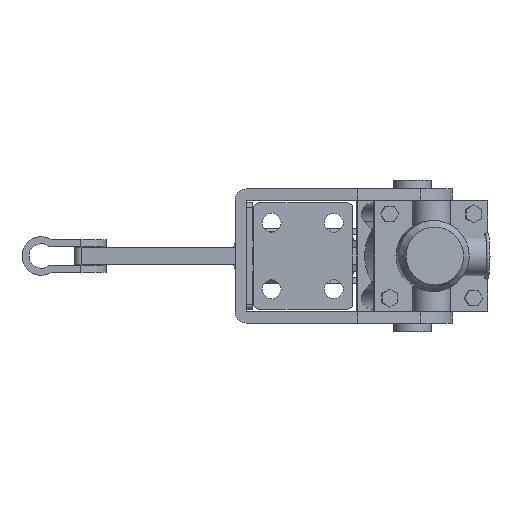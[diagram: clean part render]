
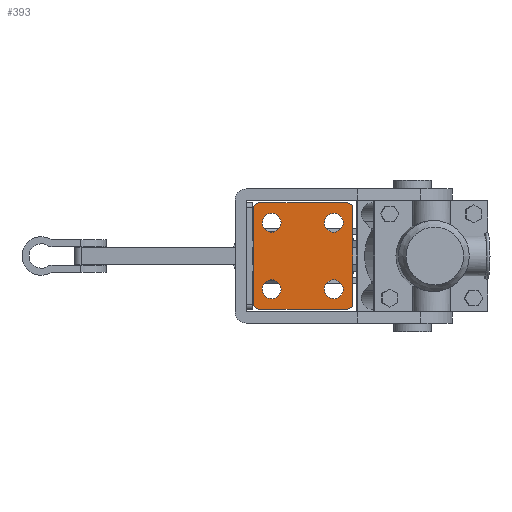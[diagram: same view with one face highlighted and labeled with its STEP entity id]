
A CAD part, front view. The second image highlights one B-rep face of the part: STEP entity #393.
In plain terms, the highlighted planar face has unit normal (0, -1, 0).
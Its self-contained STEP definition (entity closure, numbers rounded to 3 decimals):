
#393 = ADVANCED_FACE( '', ( #808, #809, #810, #811, #812 ), #813, .F. );
#808 = FACE_BOUND( '', #1644, .T. );
#809 = FACE_BOUND( '', #1645, .T. );
#810 = FACE_BOUND( '', #1646, .T. );
#811 = FACE_BOUND( '', #1647, .T. );
#812 = FACE_OUTER_BOUND( '', #1648, .T. );
#813 = PLANE( '', #1649 );
#1644 = EDGE_LOOP( '', ( #2660 ) );
#1645 = EDGE_LOOP( '', ( #2661 ) );
#1646 = EDGE_LOOP( '', ( #2662 ) );
#1647 = EDGE_LOOP( '', ( #2663 ) );
#1648 = EDGE_LOOP( '', ( #2664, #2665, #2666, #2667, #2668, #2669, #2670, #2671 ) );
#1649 = AXIS2_PLACEMENT_3D( '', #2672, #2673, #2674 );
#2660 = ORIENTED_EDGE( '', *, *, #5246, .T. );
#2661 = ORIENTED_EDGE( '', *, *, #5244, .T. );
#2662 = ORIENTED_EDGE( '', *, *, #5242, .T. );
#2663 = ORIENTED_EDGE( '', *, *, #5240, .T. );
#2664 = ORIENTED_EDGE( '', *, *, #5194, .T. );
#2665 = ORIENTED_EDGE( '', *, *, #5205, .F. );
#2666 = ORIENTED_EDGE( '', *, *, #5295, .F. );
#2667 = ORIENTED_EDGE( '', *, *, #5212, .F. );
#2668 = ORIENTED_EDGE( '', *, *, #5190, .F. );
#2669 = ORIENTED_EDGE( '', *, *, #5214, .F. );
#2670 = ORIENTED_EDGE( '', *, *, #5217, .F. );
#2671 = ORIENTED_EDGE( '', *, *, #5296, .F. );
#2672 = CARTESIAN_POINT( '', ( 0., 0., 24. ) );
#2673 = DIRECTION( '', ( 0., 1., 0. ) );
#2674 = DIRECTION( '', ( 0., 0., 1. ) );
#5190 = EDGE_CURVE( '', #6070, #6071, #6072, .T. );
#5194 = EDGE_CURVE( '', #6078, #6079, #6080, .T. );
#5205 = EDGE_CURVE( '', #6099, #6079, #6100, .T. );
#5212 = EDGE_CURVE( '', #6071, #6111, #6112, .T. );
#5214 = EDGE_CURVE( '', #6114, #6070, #6115, .T. );
#5217 = EDGE_CURVE( '', #6119, #6114, #6120, .T. );
#5240 = EDGE_CURVE( '', #6157, #6157, #6158, .T. );
#5242 = EDGE_CURVE( '', #6161, #6161, #6162, .T. );
#5244 = EDGE_CURVE( '', #6165, #6165, #6166, .T. );
#5246 = EDGE_CURVE( '', #6169, #6169, #6170, .T. );
#5295 = EDGE_CURVE( '', #6111, #6099, #6257, .T. );
#5296 = EDGE_CURVE( '', #6078, #6119, #6258, .T. );
#6070 = VERTEX_POINT( '', #7548 );
#6071 = VERTEX_POINT( '', #7549 );
#6072 = LINE( '', #7550, #7551 );
#6078 = VERTEX_POINT( '', #7560 );
#6079 = VERTEX_POINT( '', #7561 );
#6080 = LINE( '', #7562, #7563 );
#6099 = VERTEX_POINT( '', #7588 );
#6100 = CIRCLE( '', #7589, 3. );
#6111 = VERTEX_POINT( '', #7602 );
#6112 = CIRCLE( '', #7603, 3. );
#6114 = VERTEX_POINT( '', #7606 );
#6115 = CIRCLE( '', #7607, 3. );
#6119 = VERTEX_POINT( '', #7612 );
#6120 = LINE( '', #7613, #7614 );
#6157 = VERTEX_POINT( '', #7667 );
#6158 = CIRCLE( '', #7668, 4.25 );
#6161 = VERTEX_POINT( '', #7671 );
#6162 = CIRCLE( '', #7672, 4.25 );
#6165 = VERTEX_POINT( '', #7675 );
#6166 = CIRCLE( '', #7676, 4.25 );
#6169 = VERTEX_POINT( '', #7679 );
#6170 = CIRCLE( '', #7680, 4.25 );
#6257 = LINE( '', #7800, #7801 );
#6258 = CIRCLE( '', #7802, 3. );
#7548 = CARTESIAN_POINT( '', ( 6.1, 0., 24. ) );
#7549 = CARTESIAN_POINT( '', ( 45.3, 0., 24. ) );
#7550 = CARTESIAN_POINT( '', ( 0., 0., 24. ) );
#7551 = VECTOR( '', #10374, 1000. );
#7560 = CARTESIAN_POINT( '', ( 6.1, 0., -24. ) );
#7561 = CARTESIAN_POINT( '', ( 45.3, 0., -24. ) );
#7562 = CARTESIAN_POINT( '', ( 0., 0., -24. ) );
#7563 = VECTOR( '', #10378, 1000. );
#7588 = CARTESIAN_POINT( '', ( 48., 0., -22.308 ) );
#7589 = AXIS2_PLACEMENT_3D( '', #10397, #10398, #10399 );
#7602 = CARTESIAN_POINT( '', ( 48., 0., 22.308 ) );
#7603 = AXIS2_PLACEMENT_3D( '', #10414, #10415, #10416 );
#7606 = CARTESIAN_POINT( '', ( 3.1, 0., 21. ) );
#7607 = AXIS2_PLACEMENT_3D( '', #10418, #10419, #10420 );
#7612 = CARTESIAN_POINT( '', ( 3.1, 0., -21. ) );
#7613 = CARTESIAN_POINT( '', ( 3.1, 0., -21. ) );
#7614 = VECTOR( '', #10425, 1000. );
#7667 = CARTESIAN_POINT( '', ( 15.75, 0., 15. ) );
#7668 = AXIS2_PLACEMENT_3D( '', #10460, #10461, #10462 );
#7671 = CARTESIAN_POINT( '', ( 43.75, 0., 15. ) );
#7672 = AXIS2_PLACEMENT_3D( '', #10466, #10467, #10468 );
#7675 = CARTESIAN_POINT( '', ( 15.75, 0., -15. ) );
#7676 = AXIS2_PLACEMENT_3D( '', #10472, #10473, #10474 );
#7679 = CARTESIAN_POINT( '', ( 43.75, 0., -15. ) );
#7680 = AXIS2_PLACEMENT_3D( '', #10478, #10479, #10480 );
#7800 = CARTESIAN_POINT( '', ( 48., 0., 24. ) );
#7801 = VECTOR( '', #10559, 1000. );
#7802 = AXIS2_PLACEMENT_3D( '', #10560, #10561, #10562 );
#10374 = DIRECTION( '', ( 1., 0., 0. ) );
#10378 = DIRECTION( '', ( 1., 0., 0. ) );
#10397 = CARTESIAN_POINT( '', ( 45.3, 0., -21. ) );
#10398 = DIRECTION( '', ( 0., 1., 0. ) );
#10399 = DIRECTION( '', ( 1., 0., 0. ) );
#10414 = CARTESIAN_POINT( '', ( 45.3, 0., 21. ) );
#10415 = DIRECTION( '', ( 0., 1., 0. ) );
#10416 = DIRECTION( '', ( 1., 0., 0. ) );
#10418 = CARTESIAN_POINT( '', ( 6.1, 0., 21. ) );
#10419 = DIRECTION( '', ( 0., 1., 0. ) );
#10420 = DIRECTION( '', ( 1., 0., 0. ) );
#10425 = DIRECTION( '', ( 0., 0., 1. ) );
#10460 = CARTESIAN_POINT( '', ( 11.5, 0., 15. ) );
#10461 = DIRECTION( '', ( 0., 1., 0. ) );
#10462 = DIRECTION( '', ( 1., 0., 0. ) );
#10466 = CARTESIAN_POINT( '', ( 39.5, 0., 15. ) );
#10467 = DIRECTION( '', ( 0., 1., 0. ) );
#10468 = DIRECTION( '', ( 1., 0., 0. ) );
#10472 = CARTESIAN_POINT( '', ( 11.5, 0., -15. ) );
#10473 = DIRECTION( '', ( 0., 1., 0. ) );
#10474 = DIRECTION( '', ( 1., 0., 0. ) );
#10478 = CARTESIAN_POINT( '', ( 39.5, 0., -15. ) );
#10479 = DIRECTION( '', ( 0., 1., 0. ) );
#10480 = DIRECTION( '', ( 1., 0., 0. ) );
#10559 = DIRECTION( '', ( 0., 0., -1. ) );
#10560 = CARTESIAN_POINT( '', ( 6.1, 0., -21. ) );
#10561 = DIRECTION( '', ( 0., 1., 0. ) );
#10562 = DIRECTION( '', ( 1., 0., 0. ) );
